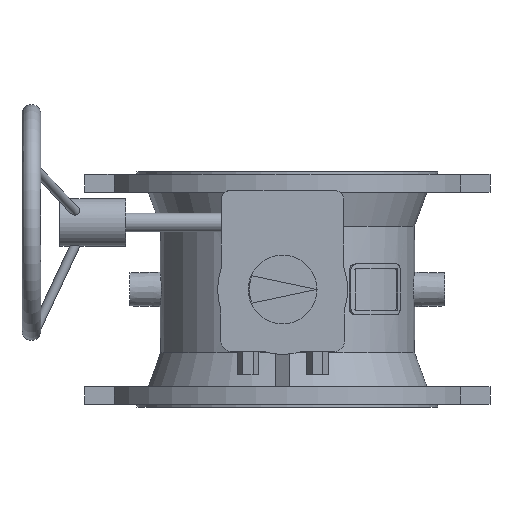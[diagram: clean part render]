
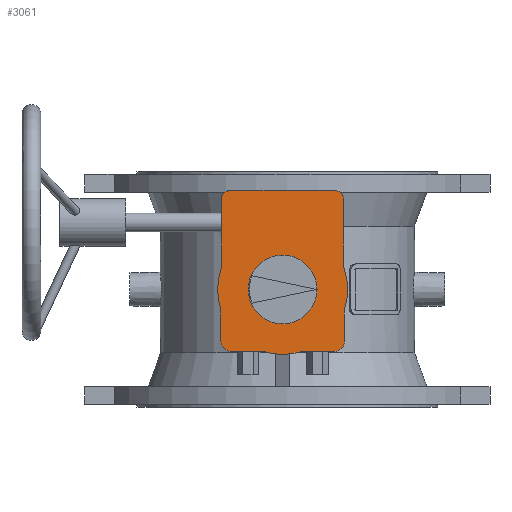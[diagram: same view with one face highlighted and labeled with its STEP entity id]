
A CAD part, left-side view. The second image highlights one B-rep face of the part: STEP entity #3061.
In plain terms, the highlighted planar face has unit normal (-1, 0, 0).
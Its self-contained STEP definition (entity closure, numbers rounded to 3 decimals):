
#3 = AXIS2_PLACEMENT_3D ( 'NONE', #2283, #2284, #2285 ) ;
#44 = AXIS2_PLACEMENT_3D ( 'NONE', #3280, #3281, #3282 ) ;
#46 = AXIS2_PLACEMENT_3D ( 'NONE', #2025, #2026, #2027 ) ;
#61 = AXIS2_PLACEMENT_3D ( 'NONE', #2055, #2056, #2057 ) ;
#86 = AXIS2_PLACEMENT_3D ( 'NONE', #2219, #2220, #2221 ) ;
#96 = AXIS2_PLACEMENT_3D ( 'NONE', #11974, #11975, #11976 ) ;
#102 = AXIS2_PLACEMENT_3D ( 'NONE', #11954, #11955, #11956 ) ;
#105 = AXIS2_PLACEMENT_3D ( 'NONE', #1303, #1304, #1305 ) ;
#127 = AXIS2_PLACEMENT_3D ( 'NONE', #1618, #1619, #1620 ) ;
#582 = CARTESIAN_POINT ( 'NONE',  ( -313., -65., 105. ) ) ;
#594 = DIRECTION ( 'NONE',  ( 0., 1., 0. ) ) ;
#1208 = CARTESIAN_POINT ( 'NONE',  ( -313., 55., 105. ) ) ;
#1216 = CARTESIAN_POINT ( 'NONE',  ( -313., -65.5, -21.697 ) ) ;
#1223 = CARTESIAN_POINT ( 'NONE',  ( -313., 65., 95. ) ) ;
#1225 = CARTESIAN_POINT ( 'NONE',  ( -313., -65.506, 21.678 ) ) ;
#1231 = CARTESIAN_POINT ( 'NONE',  ( -313., 65.5, -55.5 ) ) ;
#1233 = CARTESIAN_POINT ( 'NONE',  ( -313., -65., 24.819 ) ) ;
#1234 = CARTESIAN_POINT ( 'NONE',  ( -313., -21.697, -65.5 ) ) ;
#1235 = CARTESIAN_POINT ( 'NONE',  ( -313., -65., 95. ) ) ;
#1303 = CARTESIAN_POINT ( 'NONE',  ( -313., 75., 24.819 ) ) ;
#1304 = DIRECTION ( 'NONE',  ( 1., 0., 0. ) ) ;
#1305 = DIRECTION ( 'NONE',  ( 0., 0., 1. ) ) ;
#1416 = CARTESIAN_POINT ( 'NONE',  ( -313., 65., 24.819 ) ) ;
#1417 = DIRECTION ( 'NONE',  ( 0., 0., -1. ) ) ;
#1436 = CARTESIAN_POINT ( 'NONE',  ( -313., 65.5, -55.5 ) ) ;
#1437 = DIRECTION ( 'NONE',  ( 0., 0., -1. ) ) ;
#1587 = CARTESIAN_POINT ( 'NONE',  ( -313., -65.5, -55.5 ) ) ;
#1588 = DIRECTION ( 'NONE',  ( 0., 0., 1. ) ) ;
#1618 = CARTESIAN_POINT ( 'NONE',  ( -313., 0., 0. ) ) ;
#1619 = DIRECTION ( 'NONE',  ( -1., 0., 0. ) ) ;
#1620 = DIRECTION ( 'NONE',  ( 0., 0., 1. ) ) ;
#2025 = CARTESIAN_POINT ( 'NONE',  ( -313., 55., 95. ) ) ;
#2026 = DIRECTION ( 'NONE',  ( -1., 0., 0. ) ) ;
#2027 = DIRECTION ( 'NONE',  ( 0., 0., 1. ) ) ;
#2055 = CARTESIAN_POINT ( 'NONE',  ( -313., -55.5, -55.5 ) ) ;
#2056 = DIRECTION ( 'NONE',  ( -1., 0., 0. ) ) ;
#2057 = DIRECTION ( 'NONE',  ( 0., 0., 1. ) ) ;
#2219 = CARTESIAN_POINT ( 'NONE',  ( -313., -75., 24.819 ) ) ;
#2220 = DIRECTION ( 'NONE',  ( 1., 0., 0. ) ) ;
#2221 = DIRECTION ( 'NONE',  ( 0., 0., -1. ) ) ;
#2279 = CARTESIAN_POINT ( 'NONE',  ( -313., 55.5, -65.5 ) ) ;
#2280 = DIRECTION ( 'NONE',  ( 0., -1., 0. ) ) ;
#2283 = CARTESIAN_POINT ( 'NONE',  ( -313., 55.5, -55.5 ) ) ;
#2284 = DIRECTION ( 'NONE',  ( -1., 0., 0. ) ) ;
#2285 = DIRECTION ( 'NONE',  ( 0., 0., 1. ) ) ;
#2639 = EDGE_CURVE ( 'NONE', #9066, #9121, #5942, .T. ) ;
#3061 = ADVANCED_FACE ( 'NONE', ( #9790, #9797 ), #8368, .T. ) ;
#3280 = CARTESIAN_POINT ( 'NONE',  ( -313., -55., 95. ) ) ;
#3281 = DIRECTION ( 'NONE',  ( -1., 0., 0. ) ) ;
#3282 = DIRECTION ( 'NONE',  ( 0., 0., 1. ) ) ;
#3383 = CARTESIAN_POINT ( 'NONE',  ( -313., 0., 0. ) ) ;
#3384 = DIRECTION ( 'NONE',  ( -1., 0., 0. ) ) ;
#3385 = DIRECTION ( 'NONE',  ( 0., 0., 1. ) ) ;
#3490 = CARTESIAN_POINT ( 'NONE',  ( -313., -55.5, -65.5 ) ) ;
#3491 = DIRECTION ( 'NONE',  ( 0., -1., 0. ) ) ;
#3867 = CARTESIAN_POINT ( 'NONE',  ( -313., 0., 36.5 ) ) ;
#3963 = CARTESIAN_POINT ( 'NONE',  ( -313., -55.5, -65.5 ) ) ;
#3966 = CARTESIAN_POINT ( 'NONE',  ( -313., -65.5, -55.5 ) ) ;
#3967 = CARTESIAN_POINT ( 'NONE',  ( -313., 65.506, 21.678 ) ) ;
#3968 = CARTESIAN_POINT ( 'NONE',  ( -313., 21.697, -65.5 ) ) ;
#3969 = CARTESIAN_POINT ( 'NONE',  ( -313., 65., 24.819 ) ) ;
#3970 = CARTESIAN_POINT ( 'NONE',  ( -313., 55.5, -65.5 ) ) ;
#3972 = CARTESIAN_POINT ( 'NONE',  ( -313., 65.5, -21.697 ) ) ;
#3980 = CARTESIAN_POINT ( 'NONE',  ( -313., -55., 105. ) ) ;
#5942 = LINE ( 'NONE', #582, #5951 ) ;
#5951 = VECTOR ( 'NONE', #594, 1000. ) ;
#6848 = AXIS2_PLACEMENT_3D ( 'NONE', #8373, #8366, #8365 ) ;
#8365 = DIRECTION ( 'NONE',  ( 0., 0., 1. ) ) ;
#8366 = DIRECTION ( 'NONE',  ( -1., 0., 0. ) ) ;
#8368 = PLANE ( 'NONE',  #6848 ) ;
#8373 = CARTESIAN_POINT ( 'NONE',  ( -313., 75., 24.819 ) ) ;
#9066 = VERTEX_POINT ( 'NONE', #3980 ) ;
#9074 = VERTEX_POINT ( 'NONE', #3972 ) ;
#9076 = VERTEX_POINT ( 'NONE', #3970 ) ;
#9077 = VERTEX_POINT ( 'NONE', #3969 ) ;
#9078 = VERTEX_POINT ( 'NONE', #3968 ) ;
#9079 = VERTEX_POINT ( 'NONE', #3967 ) ;
#9080 = VERTEX_POINT ( 'NONE', #3966 ) ;
#9083 = VERTEX_POINT ( 'NONE', #3963 ) ;
#9094 = VERTEX_POINT ( 'NONE', #1235 ) ;
#9095 = VERTEX_POINT ( 'NONE', #1234 ) ;
#9096 = VERTEX_POINT ( 'NONE', #1233 ) ;
#9098 = VERTEX_POINT ( 'NONE', #1231 ) ;
#9104 = VERTEX_POINT ( 'NONE', #1225 ) ;
#9106 = VERTEX_POINT ( 'NONE', #1223 ) ;
#9113 = VERTEX_POINT ( 'NONE', #1216 ) ;
#9121 = VERTEX_POINT ( 'NONE', #1208 ) ;
#9578 = ORIENTED_EDGE ( 'NONE', *, *, #15650, .F. ) ;
#9579 = ORIENTED_EDGE ( 'NONE', *, *, #15912, .T. ) ;
#9580 = ORIENTED_EDGE ( 'NONE', *, *, #15648, .T. ) ;
#9581 = ORIENTED_EDGE ( 'NONE', *, *, #15861, .T. ) ;
#9582 = ORIENTED_EDGE ( 'NONE', *, *, #15655, .T. ) ;
#9583 = ORIENTED_EDGE ( 'NONE', *, *, #15744, .T. ) ;
#9584 = ORIENTED_EDGE ( 'NONE', *, *, #15832, .T. ) ;
#9585 = ORIENTED_EDGE ( 'NONE', *, *, #15957, .T. ) ;
#9586 = ORIENTED_EDGE ( 'NONE', *, *, #15753, .T. ) ;
#9587 = ORIENTED_EDGE ( 'NONE', *, *, #15877, .T. ) ;
#9588 = ORIENTED_EDGE ( 'NONE', *, *, #15878, .T. ) ;
#9589 = ORIENTED_EDGE ( 'NONE', *, *, #15715, .T. ) ;
#9590 = ORIENTED_EDGE ( 'NONE', *, *, #15931, .T. ) ;
#9591 = ORIENTED_EDGE ( 'NONE', *, *, #15683, .T. ) ;
#9592 = ORIENTED_EDGE ( 'NONE', *, *, #15708, .T. ) ;
#9593 = ORIENTED_EDGE ( 'NONE', *, *, #15822, .T. ) ;
#9594 = ORIENTED_EDGE ( 'NONE', *, *, #2639, .T. ) ;
#9790 = FACE_OUTER_BOUND ( 'NONE', #13370, .T. ) ;
#9797 = FACE_BOUND ( 'NONE', #13421, .T. ) ;
#10310 = CIRCLE ( 'NONE', #102, 36.5 ) ;
#10317 = LINE ( 'NONE', #11947, #10318 ) ;
#10318 = VECTOR ( 'NONE', #11948, 1000. ) ;
#10326 = CIRCLE ( 'NONE', #96, 69. ) ;
#10369 = CIRCLE ( 'NONE', #105, 10. ) ;
#10404 = LINE ( 'NONE', #1416, #10406 ) ;
#10406 = VECTOR ( 'NONE', #1417, 1000. ) ;
#10413 = LINE ( 'NONE', #1436, #10416 ) ;
#10416 = VECTOR ( 'NONE', #1437, 1000. ) ;
#10452 = VECTOR ( 'NONE', #1588, 1000. ) ;
#10454 = LINE ( 'NONE', #1587, #10452 ) ;
#10457 = CIRCLE ( 'NONE', #127, 69. ) ;
#10539 = CIRCLE ( 'NONE', #46, 10. ) ;
#10555 = CIRCLE ( 'NONE', #61, 10. ) ;
#10588 = CIRCLE ( 'NONE', #86, 10. ) ;
#10603 = CIRCLE ( 'NONE', #3, 10. ) ;
#10605 = LINE ( 'NONE', #2279, #10606 ) ;
#10606 = VECTOR ( 'NONE', #2280, 1000. ) ;
#10647 = CIRCLE ( 'NONE', #44, 10. ) ;
#10669 = CIRCLE ( 'NONE', #16132, 69. ) ;
#10701 = VECTOR ( 'NONE', #3491, 1000. ) ;
#10703 = LINE ( 'NONE', #3490, #10701 ) ;
#10830 = VERTEX_POINT ( 'NONE', #3867 ) ;
#11947 = CARTESIAN_POINT ( 'NONE',  ( -313., -65., 24.819 ) ) ;
#11948 = DIRECTION ( 'NONE',  ( 0., 0., 1. ) ) ;
#11954 = CARTESIAN_POINT ( 'NONE',  ( -313., 0., 0. ) ) ;
#11955 = DIRECTION ( 'NONE',  ( -1., 0., 0. ) ) ;
#11956 = DIRECTION ( 'NONE',  ( 0., 0., 1. ) ) ;
#11974 = CARTESIAN_POINT ( 'NONE',  ( -313., 0., 0. ) ) ;
#11975 = DIRECTION ( 'NONE',  ( -1., 0., 0. ) ) ;
#11976 = DIRECTION ( 'NONE',  ( 0., 0., 1. ) ) ;
#13370 = EDGE_LOOP ( 'NONE', ( #9594, #9593, #9592, #9591, #9590, #9589, #9588, #9587, #9586, #9585, #9584, #9583, #9582, #9581, #9580, #9579 ) ) ;
#13421 = EDGE_LOOP ( 'NONE', ( #9578 ) ) ;
#15648 = EDGE_CURVE ( 'NONE', #9096, #9094, #10317, .T. ) ;
#15650 = EDGE_CURVE ( 'NONE', #10830, #10830, #10310, .T. ) ;
#15655 = EDGE_CURVE ( 'NONE', #9113, #9104, #10326, .T. ) ;
#15683 = EDGE_CURVE ( 'NONE', #9077, #9079, #10369, .T. ) ;
#15708 = EDGE_CURVE ( 'NONE', #9106, #9077, #10404, .T. ) ;
#15715 = EDGE_CURVE ( 'NONE', #9074, #9098, #10413, .T. ) ;
#15744 = EDGE_CURVE ( 'NONE', #9080, #9113, #10454, .T. ) ;
#15753 = EDGE_CURVE ( 'NONE', #9078, #9095, #10457, .T. ) ;
#15822 = EDGE_CURVE ( 'NONE', #9121, #9106, #10539, .T. ) ;
#15832 = EDGE_CURVE ( 'NONE', #9083, #9080, #10555, .T. ) ;
#15861 = EDGE_CURVE ( 'NONE', #9104, #9096, #10588, .T. ) ;
#15877 = EDGE_CURVE ( 'NONE', #9076, #9078, #10605, .T. ) ;
#15878 = EDGE_CURVE ( 'NONE', #9098, #9076, #10603, .T. ) ;
#15912 = EDGE_CURVE ( 'NONE', #9094, #9066, #10647, .T. ) ;
#15931 = EDGE_CURVE ( 'NONE', #9079, #9074, #10669, .T. ) ;
#15957 = EDGE_CURVE ( 'NONE', #9095, #9083, #10703, .T. ) ;
#16132 = AXIS2_PLACEMENT_3D ( 'NONE', #3383, #3384, #3385 ) ;
